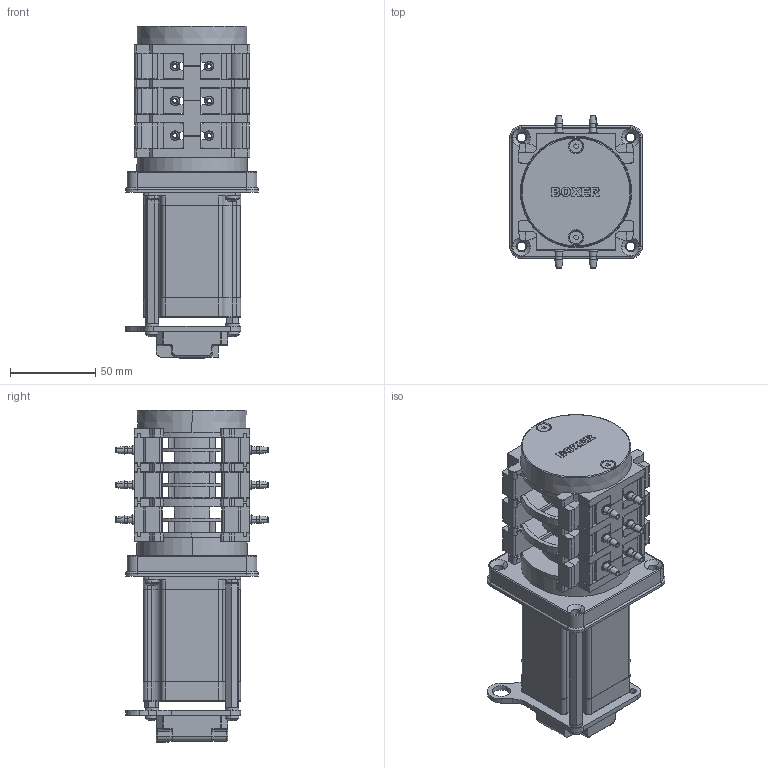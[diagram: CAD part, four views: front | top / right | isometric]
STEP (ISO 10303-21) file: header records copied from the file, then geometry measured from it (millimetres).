
FILE_DESCRIPTION (( 'STEP AP203' ), '1' );
FILE_NAME ('6343.101.STEP', '2018-10-22T12:37:20', ( '' ), ( '' ), 'SwSTEP 2.0', 'SolidWorks 2015', '' );
FILE_SCHEMA (( 'CONFIG_CONTROL_DESIGN' ));
Length unit declared in the file: millimetre
Products named in the file (1): 6343.101
Bounding box: 78.05 x 89.5 x 194.85 mm (x, y, z)
Surface area: 117777.7 mm2 (no closed solid volume)
Topology: 0 solids, 78 shells, 1340 faces, 5021 edges, 3611 vertices
Faces by surface type: plane 742, cylinder 398, cone 92, torus 73, sphere 20, bspline 15
Entity records: 54463 total; most frequent: CARTESIAN_POINT 11384, DIRECTION 9345, ORIENTED_EDGE 7962, EDGE_CURVE 5017, VERTEX_POINT 3611, VECTOR 3145, LINE 3145, AXIS2_PLACEMENT_3D 3100
